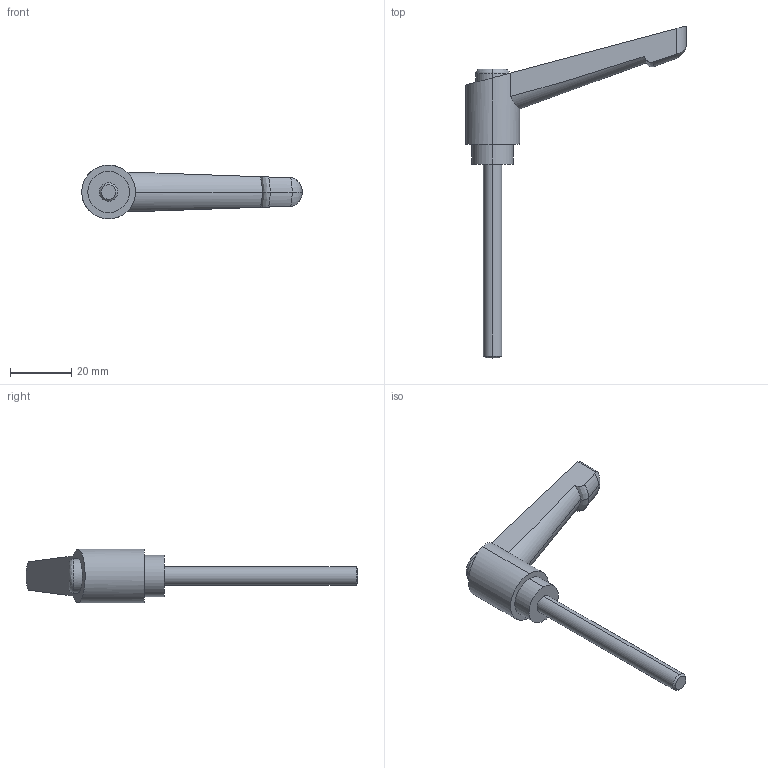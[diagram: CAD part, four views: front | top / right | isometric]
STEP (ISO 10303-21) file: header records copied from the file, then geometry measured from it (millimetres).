
FILE_DESCRIPTION (( 'STEP AP214' ), '1' );
FILE_NAME ('2.9012 Kiinnitysvipu M6 AL L63 ulkokierteellä.STEP', '2024-02-07T13:37:38', ( '' ), ( '' ), 'SwSTEP 2.0', 'SolidWorks 2024', '' );
FILE_SCHEMA (( 'AUTOMOTIVE_DESIGN' ));
Length unit declared in the file: millimetre
Products named in the file (1): 2.9012 Kiinnitysvipu M6 AL L63 ulkokierteellä
Bounding box: 71.75 x 108 x 17.5 mm (x, y, z)
Volume: 13827.6 mm3; surface area: 5346.6 mm2
Topology: 1 solids, 1 shells, 56 faces, 143 edges, 91 vertices
Faces by surface type: cylinder 31, cone 12, plane 7, bspline 4, torus 2
Entity records: 2619 total; most frequent: CARTESIAN_POINT 768, ORIENTED_EDGE 282, DIRECTION 212, EDGE_CURVE 141, VERTEX_POINT 91, AXIS2_PLACEMENT_3D 87, EDGE_LOOP 60, UNCERTAINTY_MEASURE_WITH_UNIT 58
